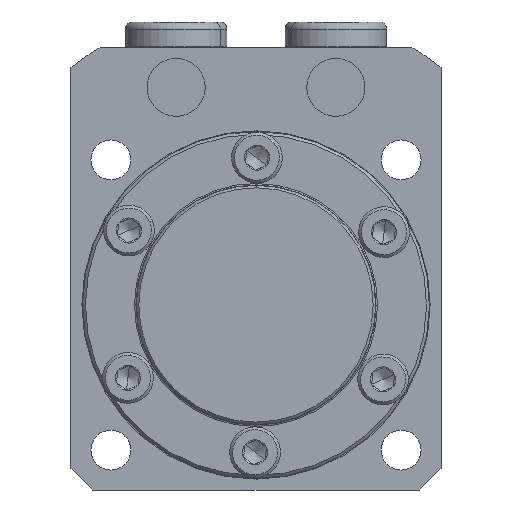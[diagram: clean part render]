
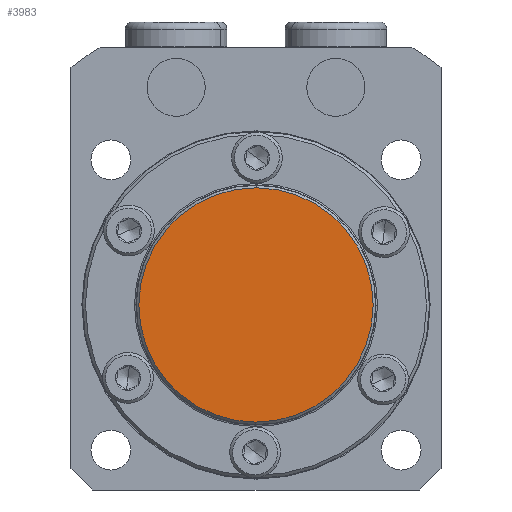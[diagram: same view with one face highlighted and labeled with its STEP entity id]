
A CAD part, front view. The second image highlights one B-rep face of the part: STEP entity #3983.
In plain terms, the highlighted planar face has unit normal (0, -1, 0).
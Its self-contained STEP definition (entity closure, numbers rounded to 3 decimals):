
#358 = CARTESIAN_POINT ( 'NONE',  ( 0., -8.5, 0. ) ) ;
#437 = DIRECTION ( 'NONE',  ( 0., 0., -1. ) ) ;
#444 = VERTEX_POINT ( 'NONE', #5375 ) ;
#1089 = DIRECTION ( 'NONE',  ( 0., 0., -1. ) ) ;
#1847 = CARTESIAN_POINT ( 'NONE',  ( 0., -8.5, 16.15 ) ) ;
#1961 = CARTESIAN_POINT ( 'NONE',  ( 0., -8.5, 0. ) ) ;
#2043 = AXIS2_PLACEMENT_3D ( 'NONE', #3210, #3637, #1089 ) ;
#2274 = FACE_OUTER_BOUND ( 'NONE', #5487, .T. ) ;
#2350 = VERTEX_POINT ( 'NONE', #1847 ) ;
#2373 = DIRECTION ( 'NONE',  ( 0., 0., -1. ) ) ;
#2429 = ORIENTED_EDGE ( 'NONE', *, *, #4646, .T. ) ;
#2677 = AXIS2_PLACEMENT_3D ( 'NONE', #358, #3008, #437 ) ;
#2786 = PLANE ( 'NONE',  #2043 ) ;
#3008 = DIRECTION ( 'NONE',  ( 0., -1., 0. ) ) ;
#3166 = AXIS2_PLACEMENT_3D ( 'NONE', #1961, #4955, #2373 ) ;
#3210 = CARTESIAN_POINT ( 'NONE',  ( 0., -8.5, 0. ) ) ;
#3637 = DIRECTION ( 'NONE',  ( 0., -1., 0. ) ) ;
#3889 = CIRCLE ( 'NONE', #3166, 16.15 ) ;
#3983 = ADVANCED_FACE ( 'NONE', ( #2274 ), #2786, .T. ) ;
#4118 = EDGE_CURVE ( 'NONE', #2350, #444, #3889, .T. ) ;
#4134 = ORIENTED_EDGE ( 'NONE', *, *, #4118, .T. ) ;
#4285 = CIRCLE ( 'NONE', #2677, 16.15 ) ;
#4646 = EDGE_CURVE ( 'NONE', #444, #2350, #4285, .T. ) ;
#4955 = DIRECTION ( 'NONE',  ( 0., -1., 0. ) ) ;
#5375 = CARTESIAN_POINT ( 'NONE',  ( 0., -8.5, -16.15 ) ) ;
#5487 = EDGE_LOOP ( 'NONE', ( #4134, #2429 ) ) ;
